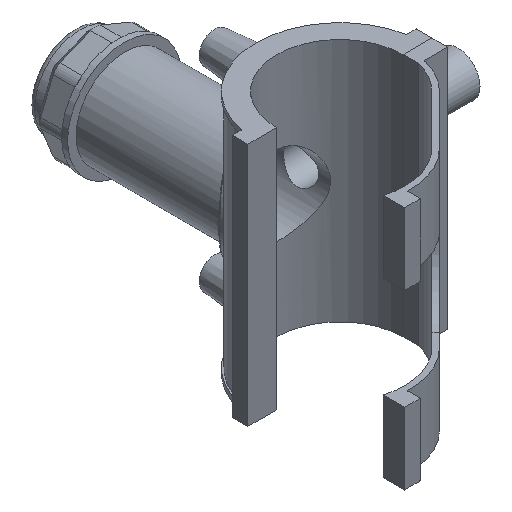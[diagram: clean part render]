
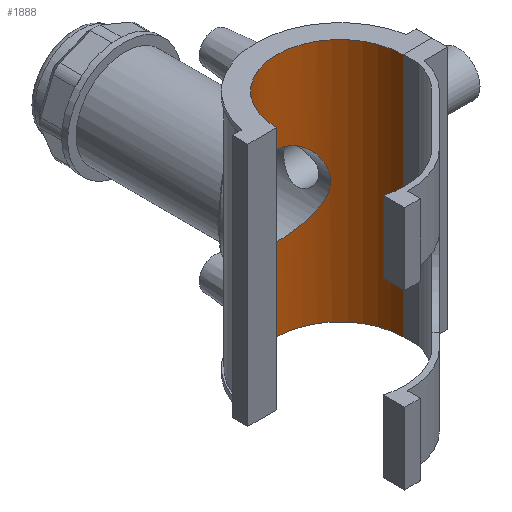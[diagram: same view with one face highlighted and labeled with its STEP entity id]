
A CAD part, isometric view. The second image highlights one B-rep face of the part: STEP entity #1888.
In plain terms, the highlighted cylindrical face has radius 30.55 mm (diameter 61.1 mm), a partial arc.
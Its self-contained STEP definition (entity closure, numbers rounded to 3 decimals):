
#50=FACE_BOUND('',#623,.T.);
#51=B_SPLINE_CURVE_WITH_KNOTS('',3,(#2711,#2712,#2713,#2714,#2715,#2716,
#2717,#2718,#2719,#2720,#2721,#2722,#2723,#2724,#2725,#2726,#2727,#2728,
#2729,#2730,#2731,#2732,#2733,#2734,#2735,#2736,#2737,#2738,#2739,#2740,
#2741,#2742,#2743,#2744,#2745,#2746,#2747,#2748,#2749,#2750,#2751,#2752,
#2753,#2754,#2755,#2756,#2757,#2758,#2759,#2760),.UNSPECIFIED.,.F.,.F.,
(4,2,2,2,2,2,2,2,2,2,2,2,2,2,2,2,2,2,2,2,2,2,2,2,4),(0.,0.377,
0.754,1.131,1.508,1.882,2.256,
2.63,3.004,3.378,3.752,4.126,
4.5,4.877,5.254,5.631,6.008,
6.385,6.762,7.139,7.516,7.89,
8.264,8.638,9.012),.UNSPECIFIED.);
#52=B_SPLINE_CURVE_WITH_KNOTS('',3,(#2761,#2762,#2763,#2764,#2765,#2766,
#2767,#2768,#2769,#2770,#2771,#2772,#2773,#2774,#2775,#2776,#2777,#2778),
 .UNSPECIFIED.,.F.,.F.,(4,2,2,2,2,2,2,2,4),(9.012,9.386,
9.759,10.133,10.507,10.884,11.261,
11.638,12.015),.UNSPECIFIED.);
#172=LINE('',#3660,#328);
#173=LINE('',#3664,#329);
#328=VECTOR('',#2543,10.);
#329=VECTOR('',#2546,10.);
#412=CYLINDRICAL_SURFACE('',#2095,30.55);
#501=FACE_OUTER_BOUND('',#622,.T.);
#622=EDGE_LOOP('',(#1595,#1596,#1597,#1598));
#623=EDGE_LOOP('',(#1599,#1600));
#719=CIRCLE('',#2092,30.55);
#720=CIRCLE('',#2094,30.55);
#739=VERTEX_POINT('',#2708);
#740=VERTEX_POINT('',#2710);
#867=VERTEX_POINT('',#3654);
#869=VERTEX_POINT('',#3658);
#870=VERTEX_POINT('',#3662);
#871=VERTEX_POINT('',#3663);
#921=EDGE_CURVE('',#740,#739,#51,.T.);
#922=EDGE_CURVE('',#739,#740,#52,.T.);
#1115=EDGE_CURVE('',#867,#869,#172,.T.);
#1116=EDGE_CURVE('',#870,#871,#173,.T.);
#1122=EDGE_CURVE('',#867,#871,#719,.T.);
#1123=EDGE_CURVE('',#870,#869,#720,.T.);
#1595=ORIENTED_EDGE('',*,*,#1116,.T.);
#1596=ORIENTED_EDGE('',*,*,#1122,.F.);
#1597=ORIENTED_EDGE('',*,*,#1115,.T.);
#1598=ORIENTED_EDGE('',*,*,#1123,.F.);
#1599=ORIENTED_EDGE('',*,*,#921,.T.);
#1600=ORIENTED_EDGE('',*,*,#922,.T.);
#1888=ADVANCED_FACE('',(#501,#50),#412,.F.);
#2092=AXIS2_PLACEMENT_3D('',#3673,#2554,#2555);
#2094=AXIS2_PLACEMENT_3D('',#3675,#2558,#2559);
#2095=AXIS2_PLACEMENT_3D('',#3678,#2562,#2563);
#2543=DIRECTION('',(0.,0.,-1.));
#2546=DIRECTION('',(0.,0.,1.));
#2554=DIRECTION('center_axis',(0.,0.,-1.));
#2555=DIRECTION('ref_axis',(-1.,0.,0.));
#2558=DIRECTION('center_axis',(0.,0.,1.));
#2559=DIRECTION('ref_axis',(-1.,0.,0.));
#2562=DIRECTION('center_axis',(0.,0.,1.));
#2563=DIRECTION('ref_axis',(-1.,0.,0.));
#2708=CARTESIAN_POINT('',(0.,30.55,-19.247));
#2710=CARTESIAN_POINT('',(-19.247,23.725,0.));
#2711=CARTESIAN_POINT('Ctrl Pts',(-19.247,23.725,0.));
#2712=CARTESIAN_POINT('Ctrl Pts',(-19.247,23.725,1.257));
#2713=CARTESIAN_POINT('Ctrl Pts',(-19.122,23.828,2.537));
#2714=CARTESIAN_POINT('Ctrl Pts',(-18.615,24.226,5.054));
#2715=CARTESIAN_POINT('Ctrl Pts',(-18.234,24.519,6.291));
#2716=CARTESIAN_POINT('Ctrl Pts',(-17.244,25.225,8.643));
#2717=CARTESIAN_POINT('Ctrl Pts',(-16.634,25.637,9.761));
#2718=CARTESIAN_POINT('Ctrl Pts',(-15.236,26.492,11.825));
#2719=CARTESIAN_POINT('Ctrl Pts',(-14.448,26.934,12.771));
#2720=CARTESIAN_POINT('Ctrl Pts',(-12.778,27.765,14.441));
#2721=CARTESIAN_POINT('Ctrl Pts',(-11.836,28.186,15.228));
#2722=CARTESIAN_POINT('Ctrl Pts',(-9.771,28.966,16.628));
#2723=CARTESIAN_POINT('Ctrl Pts',(-8.648,29.326,17.242));
#2724=CARTESIAN_POINT('Ctrl Pts',(-6.286,29.921,18.236));
#2725=CARTESIAN_POINT('Ctrl Pts',(-5.044,30.157,18.618));
#2726=CARTESIAN_POINT('Ctrl Pts',(-2.524,30.472,19.123));
#2727=CARTESIAN_POINT('Ctrl Pts',(-1.246,30.55,19.247));
#2728=CARTESIAN_POINT('Ctrl Pts',(1.246,30.55,19.247));
#2729=CARTESIAN_POINT('Ctrl Pts',(2.524,30.472,19.123));
#2730=CARTESIAN_POINT('Ctrl Pts',(5.044,30.157,18.618));
#2731=CARTESIAN_POINT('Ctrl Pts',(6.286,29.921,18.236));
#2732=CARTESIAN_POINT('Ctrl Pts',(8.648,29.326,17.242));
#2733=CARTESIAN_POINT('Ctrl Pts',(9.771,28.966,16.628));
#2734=CARTESIAN_POINT('Ctrl Pts',(11.836,28.186,15.228));
#2735=CARTESIAN_POINT('Ctrl Pts',(12.778,27.765,14.441));
#2736=CARTESIAN_POINT('Ctrl Pts',(14.448,26.934,12.771));
#2737=CARTESIAN_POINT('Ctrl Pts',(15.236,26.492,11.825));
#2738=CARTESIAN_POINT('Ctrl Pts',(16.634,25.637,9.761));
#2739=CARTESIAN_POINT('Ctrl Pts',(17.244,25.225,8.643));
#2740=CARTESIAN_POINT('Ctrl Pts',(18.234,24.519,6.291));
#2741=CARTESIAN_POINT('Ctrl Pts',(18.615,24.226,5.054));
#2742=CARTESIAN_POINT('Ctrl Pts',(19.122,23.828,2.537));
#2743=CARTESIAN_POINT('Ctrl Pts',(19.247,23.725,1.257));
#2744=CARTESIAN_POINT('Ctrl Pts',(19.247,23.725,-1.257));
#2745=CARTESIAN_POINT('Ctrl Pts',(19.122,23.828,-2.537));
#2746=CARTESIAN_POINT('Ctrl Pts',(18.615,24.226,-5.054));
#2747=CARTESIAN_POINT('Ctrl Pts',(18.234,24.519,-6.291));
#2748=CARTESIAN_POINT('Ctrl Pts',(17.244,25.225,-8.643));
#2749=CARTESIAN_POINT('Ctrl Pts',(16.634,25.637,-9.761));
#2750=CARTESIAN_POINT('Ctrl Pts',(15.236,26.492,-11.825));
#2751=CARTESIAN_POINT('Ctrl Pts',(14.448,26.934,-12.771));
#2752=CARTESIAN_POINT('Ctrl Pts',(12.778,27.765,-14.441));
#2753=CARTESIAN_POINT('Ctrl Pts',(11.836,28.186,-15.228));
#2754=CARTESIAN_POINT('Ctrl Pts',(9.771,28.966,-16.628));
#2755=CARTESIAN_POINT('Ctrl Pts',(8.648,29.326,-17.242));
#2756=CARTESIAN_POINT('Ctrl Pts',(6.286,29.921,-18.236));
#2757=CARTESIAN_POINT('Ctrl Pts',(5.044,30.157,-18.618));
#2758=CARTESIAN_POINT('Ctrl Pts',(2.524,30.472,-19.123));
#2759=CARTESIAN_POINT('Ctrl Pts',(1.246,30.55,-19.247));
#2760=CARTESIAN_POINT('Ctrl Pts',(0.,30.55,-19.247));
#2761=CARTESIAN_POINT('Ctrl Pts',(0.,30.55,-19.247));
#2762=CARTESIAN_POINT('Ctrl Pts',(-1.246,30.55,-19.247));
#2763=CARTESIAN_POINT('Ctrl Pts',(-2.524,30.472,-19.123));
#2764=CARTESIAN_POINT('Ctrl Pts',(-5.044,30.157,-18.618));
#2765=CARTESIAN_POINT('Ctrl Pts',(-6.286,29.921,-18.236));
#2766=CARTESIAN_POINT('Ctrl Pts',(-8.648,29.326,-17.242));
#2767=CARTESIAN_POINT('Ctrl Pts',(-9.771,28.966,-16.628));
#2768=CARTESIAN_POINT('Ctrl Pts',(-11.836,28.186,-15.228));
#2769=CARTESIAN_POINT('Ctrl Pts',(-12.778,27.765,-14.441));
#2770=CARTESIAN_POINT('Ctrl Pts',(-14.448,26.934,-12.771));
#2771=CARTESIAN_POINT('Ctrl Pts',(-15.236,26.492,-11.825));
#2772=CARTESIAN_POINT('Ctrl Pts',(-16.634,25.637,-9.761));
#2773=CARTESIAN_POINT('Ctrl Pts',(-17.244,25.225,-8.643));
#2774=CARTESIAN_POINT('Ctrl Pts',(-18.234,24.519,-6.291));
#2775=CARTESIAN_POINT('Ctrl Pts',(-18.615,24.226,-5.054));
#2776=CARTESIAN_POINT('Ctrl Pts',(-19.122,23.828,-2.537));
#2777=CARTESIAN_POINT('Ctrl Pts',(-19.247,23.725,-1.257));
#2778=CARTESIAN_POINT('Ctrl Pts',(-19.247,23.725,0.));
#3654=CARTESIAN_POINT('',(-30.55,0.05,59.055));
#3658=CARTESIAN_POINT('',(-30.55,0.05,-59.055));
#3660=CARTESIAN_POINT('',(-30.55,0.05,0.));
#3662=CARTESIAN_POINT('',(30.55,0.05,-59.055));
#3663=CARTESIAN_POINT('',(30.55,0.05,59.055));
#3664=CARTESIAN_POINT('',(30.55,0.05,0.));
#3673=CARTESIAN_POINT('Origin',(0.,0.,59.055));
#3675=CARTESIAN_POINT('Origin',(0.,0.,-59.055));
#3678=CARTESIAN_POINT('Origin',(0.,0.,0.));
